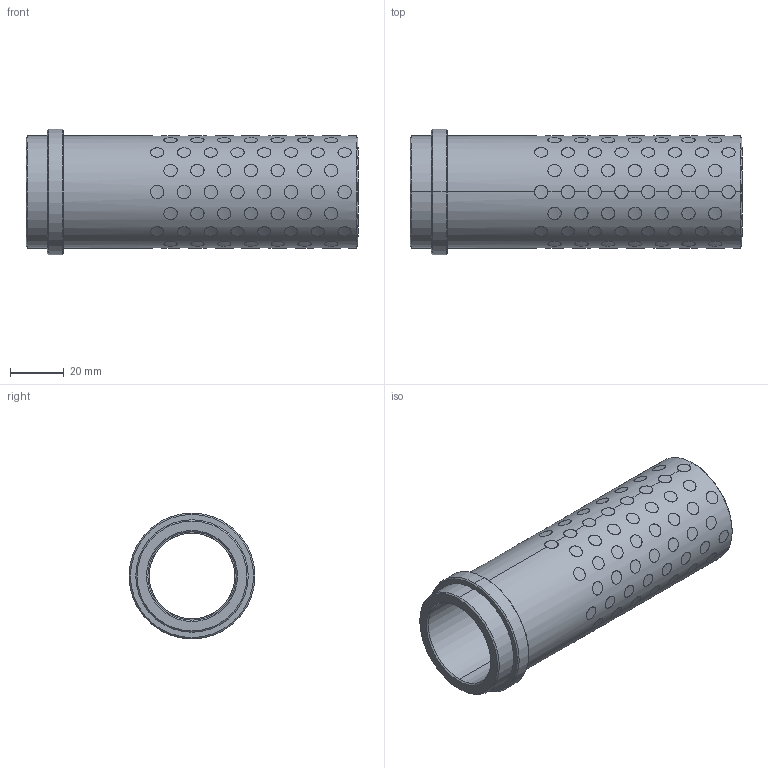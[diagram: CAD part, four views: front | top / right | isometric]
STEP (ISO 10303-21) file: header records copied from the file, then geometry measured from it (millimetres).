
FILE_DESCRIPTION((''),'2;1');
FILE_NAME('G31232116','2017-12-30T',('MANU'),(''),'PRO/ENGINEER BY PARAMETRIC TECHNOLOGY CORPORATION, 2012130','PRO/ENGINEER BY PARAMETRIC TECHNOLOGY CORPORATION, 2012130','');
FILE_SCHEMA(('CONFIG_CONTROL_DESIGN'));
Length unit declared in the file: millimetre
Products named in the file (1): G31232116
Bounding box: 124 x 47 x 47 mm (x, y, z)
Volume: 71588.1 mm3; surface area: 49445.2 mm2
Topology: 121 solids, 121 shells, 747 faces, 1590 edges, 1056 vertices
Faces by surface type: cylinder 730, cone 12, plane 5
Entity records: 38012 total; most frequent: CARTESIAN_POINT 23491, ORIENTED_EDGE 3180, DIRECTION 2092, EDGE_CURVE 1590, VERTEX_POINT 1056, B_SPLINE_CURVE_WITH_KNOTS 1024, EDGE_LOOP 960, AXIS2_PLACEMENT_3D 779
